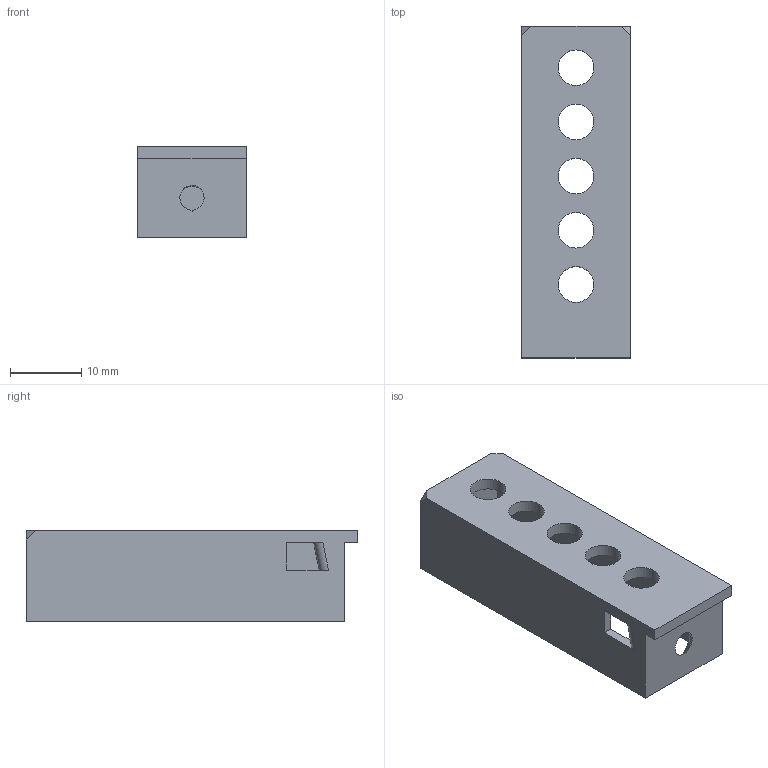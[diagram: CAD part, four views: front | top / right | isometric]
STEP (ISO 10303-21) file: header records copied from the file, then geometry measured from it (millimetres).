
FILE_DESCRIPTION (( 'STEP AP214' ), '1' );
FILE_NAME ('led block.STEP', '2021-06-11T04:52:36', ( '' ), ( '' ), 'SwSTEP 2.0', 'SolidWorks 2016', '' );
FILE_SCHEMA (( 'AUTOMOTIVE_DESIGN' ));
Length unit declared in the file: inch
Products named in the file (1): led block
Bounding box: 15.28 x 46.67 x 12.7 mm (x, y, z)
Volume: 2837.1 mm3; surface area: 4028.7 mm2
Topology: 1 solids, 1 shells, 32 faces, 89 edges, 59 vertices
Faces by surface type: plane 17, cylinder 13, cone 2
Entity records: 1097 total; most frequent: CARTESIAN_POINT 199, ORIENTED_EDGE 178, DIRECTION 173, EDGE_CURVE 89, VERTEX_POINT 59, VECTOR 59, LINE 59, AXIS2_PLACEMENT_3D 57
